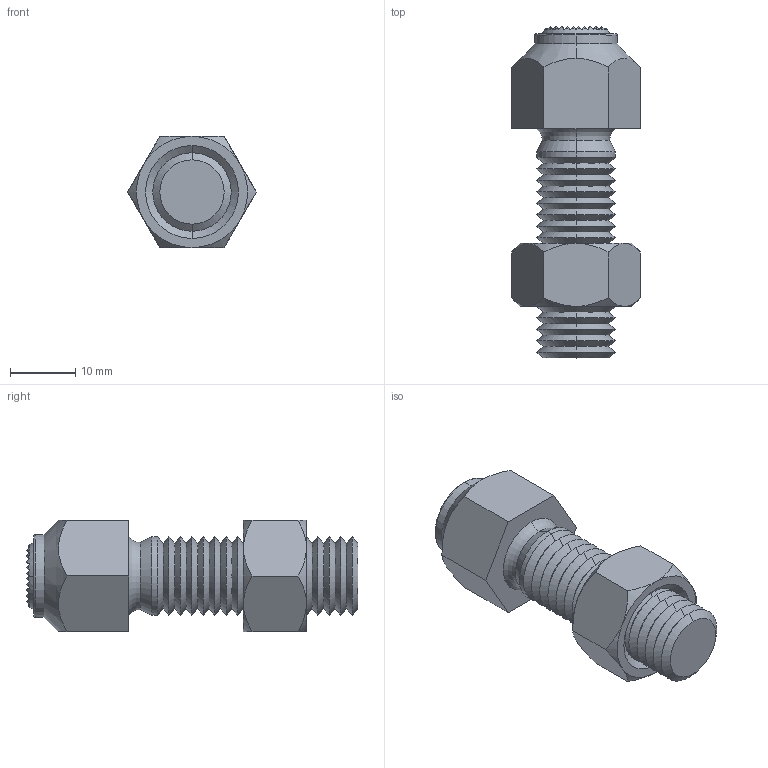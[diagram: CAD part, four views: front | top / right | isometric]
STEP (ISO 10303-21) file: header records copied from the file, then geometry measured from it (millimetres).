
FILE_DESCRIPTION (( 'STEP AP203' ), '1' );
FILE_NAME ('34120.W0317.step', '2017-03-27T09:21:52', ( 'User' ), ( '' ), 'SwSTEP 2.0', 'SolidWorks 2009', '' );
FILE_SCHEMA (( 'CONFIG_CONTROL_DESIGN' ));
Length unit declared in the file: millimetre
Products named in the file (4): Part3_34120.W0317; 34120.W0317; Part1_34120.W0317; Part2_34120.W0317
Assembly tree (3 placements, depth 2):
  34120.W0317
    Part3_34120.W0317
    Part1_34120.W0317
    Part2_34120.W0317
Bounding box: 19.63 x 50.7 x 17 mm (x, y, z)
Volume: 7835.2 mm3; surface area: 4882.2 mm2
Topology: 3 solids, 3 shells, 561 faces, 1010 edges, 453 vertices
Faces by surface type: plane 451, cone 90, torus 8, cylinder 8, sphere 4
Entity records: 13247 total; most frequent: DIRECTION 2362, CARTESIAN_POINT 2245, ORIENTED_EDGE 2000, EDGE_CURVE 1000, AXIS2_PLACEMENT_3D 827, VECTOR 708, LINE 708, EDGE_LOOP 565
